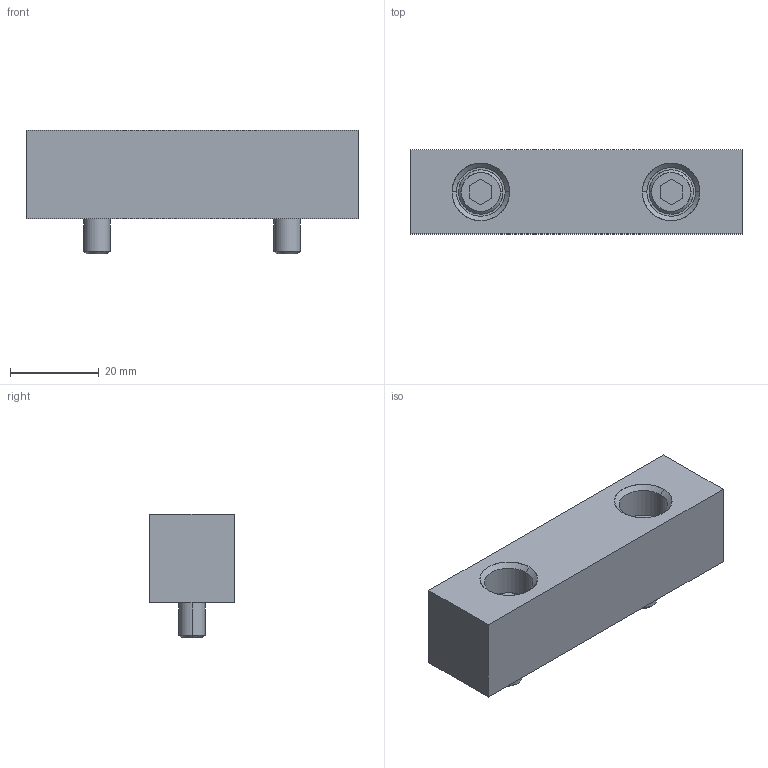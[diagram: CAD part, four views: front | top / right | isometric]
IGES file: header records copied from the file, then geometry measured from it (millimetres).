
Global section: file name: E:\UnigraphicsGraphicData\MISUMI_PRESS-PARTS\IGES\3d_sbvk19-75-20-n-15_00156_r00.igs; native system: NX V5.0; preprocessor: UGS NX IGES V5.0; author: MISUMI; date: 20110105.162511; units: millimetre
Bounding box: 75 x 19 x 28 mm (x, y, z)
Surface area: 8948 mm2 (no closed solid volume)
Topology: 0 solids, 0 shells, 56 faces, 336 edges, 336 vertices
Faces by surface type: bspline 56
